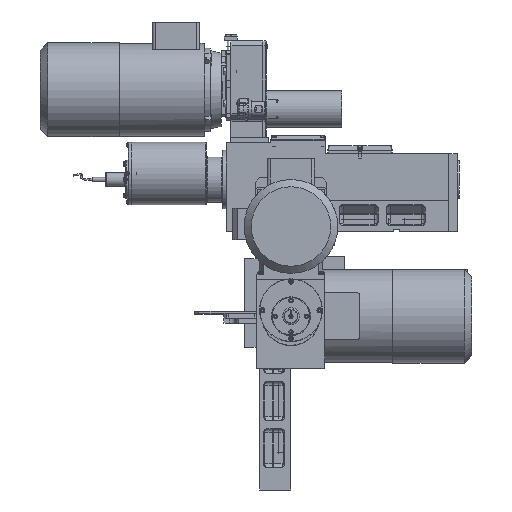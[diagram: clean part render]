
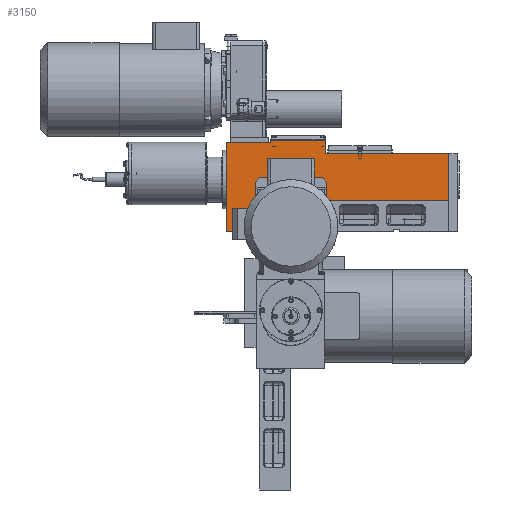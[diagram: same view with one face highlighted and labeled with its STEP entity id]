
A CAD part, front view. The second image highlights one B-rep face of the part: STEP entity #3150.
In plain terms, the highlighted planar face has unit normal (0, -1, 0).
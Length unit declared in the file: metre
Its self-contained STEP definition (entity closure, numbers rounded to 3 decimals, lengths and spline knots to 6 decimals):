
#3150 = ADVANCED_FACE( '', ( #5116 ), #5117, .T. );
#5116 = FACE_OUTER_BOUND( '', #9491, .T. );
#5117 = PLANE( '', #9492 );
#9491 = EDGE_LOOP( '', ( #15672, #15673, #15674, #15675, #15676, #15677, #15678, #15679, #15680, #15681 ) );
#9492 = AXIS2_PLACEMENT_3D( '', #15682, #15683, #15684 );
#15672 = ORIENTED_EDGE( '', *, *, #19782, .T. );
#15673 = ORIENTED_EDGE( '', *, *, #19754, .T. );
#15674 = ORIENTED_EDGE( '', *, *, #19751, .F. );
#15675 = ORIENTED_EDGE( '', *, *, #19768, .T. );
#15676 = ORIENTED_EDGE( '', *, *, #19776, .T. );
#15677 = ORIENTED_EDGE( '', *, *, #19781, .T. );
#15678 = ORIENTED_EDGE( '', *, *, #19783, .T. );
#15679 = ORIENTED_EDGE( '', *, *, #19745, .T. );
#15680 = ORIENTED_EDGE( '', *, *, #19784, .T. );
#15681 = ORIENTED_EDGE( '', *, *, #19785, .T. );
#15682 = CARTESIAN_POINT( '', ( 0.337, -0.003889, 0. ) );
#15683 = DIRECTION( '', ( 0., -1., 0. ) );
#15684 = DIRECTION( '', ( 1., 0., 0. ) );
#19745 = EDGE_CURVE( '', #22759, #22757, #22760, .T. );
#19751 = EDGE_CURVE( '', #22769, #22764, #22771, .T. );
#19754 = EDGE_CURVE( '', #22772, #22764, #22776, .T. );
#19768 = EDGE_CURVE( '', #22769, #22798, #22800, .T. );
#19776 = EDGE_CURVE( '', #22798, #22810, #22812, .T. );
#19781 = EDGE_CURVE( '', #22810, #22817, #22819, .T. );
#19782 = EDGE_CURVE( '', #22820, #22772, #22821, .T. );
#19783 = EDGE_CURVE( '', #22817, #22759, #22822, .T. );
#19784 = EDGE_CURVE( '', #22757, #22823, #22824, .T. );
#19785 = EDGE_CURVE( '', #22823, #22820, #22825, .T. );
#22757 = VERTEX_POINT( '', #29059 );
#22759 = VERTEX_POINT( '', #29062 );
#22760 = LINE( '', #29063, #29064 );
#22764 = VERTEX_POINT( '', #29070 );
#22769 = VERTEX_POINT( '', #29077 );
#22771 = LINE( '', #29080, #29081 );
#22772 = VERTEX_POINT( '', #29082 );
#22776 = LINE( '', #29088, #29089 );
#22798 = VERTEX_POINT( '', #29123 );
#22800 = LINE( '', #29126, #29127 );
#22810 = VERTEX_POINT( '', #29143 );
#22812 = LINE( '', #29146, #29147 );
#22817 = VERTEX_POINT( '', #29155 );
#22819 = LINE( '', #29158, #29159 );
#22820 = VERTEX_POINT( '', #29160 );
#22821 = LINE( '', #29161, #29162 );
#22822 = LINE( '', #29163, #29164 );
#22823 = VERTEX_POINT( '', #29165 );
#22824 = LINE( '', #29166, #29167 );
#22825 = LINE( '', #29168, #29169 );
#29059 = CARTESIAN_POINT( '', ( 0.102, -0.003889, 0.115 ) );
#29062 = CARTESIAN_POINT( '', ( 0.102, -0.003889, 0.09 ) );
#29063 = CARTESIAN_POINT( '', ( 0.102, -0.003889, 0.09 ) );
#29064 = VECTOR( '', #32961, 1. );
#29070 = CARTESIAN_POINT( '', ( -0.088, -0.003889, -0.059 ) );
#29077 = CARTESIAN_POINT( '', ( -0.005, -0.003889, -0.059 ) );
#29080 = CARTESIAN_POINT( '', ( -0.005, -0.003889, -0.059 ) );
#29081 = VECTOR( '', #32967, 1. );
#29082 = CARTESIAN_POINT( '', ( -0.088, -0.003889, 0.11 ) );
#29088 = CARTESIAN_POINT( '', ( -0.088, -0.003889, -0.059 ) );
#29089 = VECTOR( '', #32970, 1. );
#29123 = CARTESIAN_POINT( '', ( -0.005, -0.003889, 0. ) );
#29126 = CARTESIAN_POINT( '', ( -0.005, -0.003889, -0.059 ) );
#29127 = VECTOR( '', #32984, 1. );
#29143 = CARTESIAN_POINT( '', ( 0.337, -0.003889, 0. ) );
#29146 = CARTESIAN_POINT( '', ( -0.005, -0.003889, 0. ) );
#29147 = VECTOR( '', #32992, 1. );
#29155 = CARTESIAN_POINT( '', ( 0.337, -0.003889, 0.09 ) );
#29158 = CARTESIAN_POINT( '', ( 0.337, -0.003889, 0. ) );
#29159 = VECTOR( '', #32997, 1. );
#29160 = CARTESIAN_POINT( '', ( -0.003, -0.003889, 0.11 ) );
#29161 = CARTESIAN_POINT( '', ( 0.14575, -0.003889, 0.11 ) );
#29162 = VECTOR( '', #32998, 1. );
#29163 = CARTESIAN_POINT( '', ( -0.005, -0.003889, 0.09 ) );
#29164 = VECTOR( '', #32999, 1. );
#29165 = CARTESIAN_POINT( '', ( -0.003, -0.003889, 0.115 ) );
#29166 = CARTESIAN_POINT( '', ( -0.005, -0.003889, 0.115 ) );
#29167 = VECTOR( '', #33000, 1. );
#29168 = CARTESIAN_POINT( '', ( -0.003, -0.003889, 0.058735 ) );
#29169 = VECTOR( '', #33001, 1. );
#32961 = DIRECTION( '', ( 0., 0., 1. ) );
#32967 = DIRECTION( '', ( -1., 0., 0. ) );
#32970 = DIRECTION( '', ( 0., 0., -1. ) );
#32984 = DIRECTION( '', ( 0., 0., 1. ) );
#32992 = DIRECTION( '', ( 1., 0., 0. ) );
#32997 = DIRECTION( '', ( 0., 0., 1. ) );
#32998 = DIRECTION( '', ( -1., 0., 0. ) );
#32999 = DIRECTION( '', ( -1., 0., 0. ) );
#33000 = DIRECTION( '', ( -1., 0., 0. ) );
#33001 = DIRECTION( '', ( 0., 0., -1. ) );
